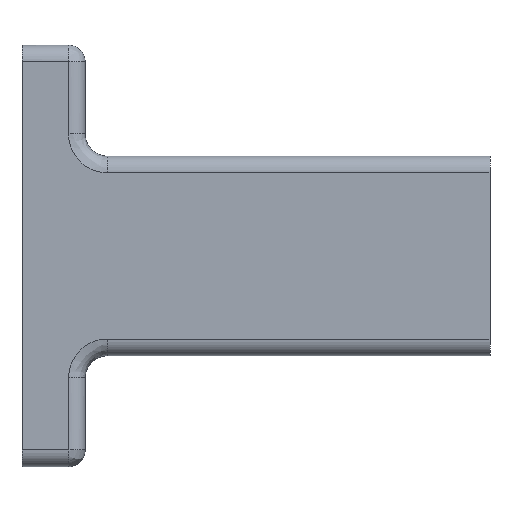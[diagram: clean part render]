
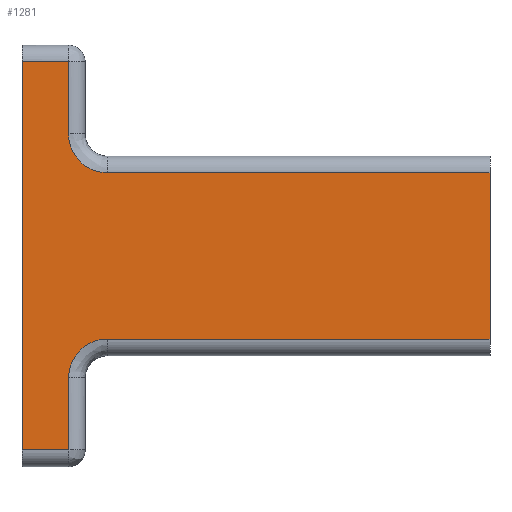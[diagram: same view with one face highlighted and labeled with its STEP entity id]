
A CAD part, top view. The second image highlights one B-rep face of the part: STEP entity #1281.
In plain terms, the highlighted free-form (B-spline) face has degree [1, 1] with [2, 2] control points.
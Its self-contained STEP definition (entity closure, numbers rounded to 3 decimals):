
#310=CARTESIAN_POINT('',(42.2,7.5,5.5));
#311=VERTEX_POINT('',#310);
#330=CARTESIAN_POINT('',(42.2,-7.5,5.5));
#331=VERTEX_POINT('',#330);
#332=CARTESIAN_POINT('',(42.2,7.5,5.5));
#333=CARTESIAN_POINT('',(42.2,4.5,5.5));
#334=CARTESIAN_POINT('',(42.2,1.5,5.5));
#335=CARTESIAN_POINT('',(42.2,-1.5,5.5));
#336=CARTESIAN_POINT('',(42.2,-4.5,5.5));
#337=CARTESIAN_POINT('',(42.2,-7.5,5.5));
#338=B_SPLINE_CURVE_WITH_KNOTS('',5,(#332,#333,#334,#335,#336,#337),.UNSPECIFIED.,.F.,.U.,(6,6),(0.,15.),.UNSPECIFIED.);
#339=EDGE_CURVE('',#311,#331,#338,.T.);
#572=CARTESIAN_POINT('',(7.7,-7.5,5.5));
#573=VERTEX_POINT('',#572);
#574=CARTESIAN_POINT('',(7.7,-7.5,5.5));
#575=CARTESIAN_POINT('',(14.6,-7.5,5.5));
#576=CARTESIAN_POINT('',(21.5,-7.5,5.5));
#577=CARTESIAN_POINT('',(28.4,-7.5,5.5));
#578=CARTESIAN_POINT('',(35.3,-7.5,5.5));
#579=CARTESIAN_POINT('',(42.2,-7.5,5.5));
#580=B_SPLINE_CURVE_WITH_KNOTS('',5,(#574,#575,#576,#577,#578,#579),.UNSPECIFIED.,.F.,.U.,(6,6),(0.,34.5),.UNSPECIFIED.);
#581=EDGE_CURVE('',#573,#331,#580,.T.);
#677=CARTESIAN_POINT('',(4.2,-11.,5.5));
#678=VERTEX_POINT('',#677);
#679=CARTESIAN_POINT('',(4.2,-11.,5.5));
#680=CARTESIAN_POINT('',(4.2,-10.725,5.5));
#681=CARTESIAN_POINT('',(4.227,-10.45,5.5));
#682=CARTESIAN_POINT('',(4.281,-10.179,5.5));
#683=CARTESIAN_POINT('',(4.441,-9.65,5.5));
#684=CARTESIAN_POINT('',(4.702,-9.163,5.5));
#685=CARTESIAN_POINT('',(4.855,-8.933,5.5));
#686=CARTESIAN_POINT('',(5.206,-8.506,5.5));
#687=CARTESIAN_POINT('',(5.633,-8.155,5.5));
#688=CARTESIAN_POINT('',(5.863,-8.002,5.5));
#689=CARTESIAN_POINT('',(6.35,-7.741,5.5));
#690=CARTESIAN_POINT('',(6.879,-7.581,5.5));
#691=CARTESIAN_POINT('',(7.15,-7.527,5.5));
#692=CARTESIAN_POINT('',(7.425,-7.5,5.5));
#693=CARTESIAN_POINT('',(7.7,-7.5,5.5));
#694=B_SPLINE_CURVE_WITH_KNOTS('',5,(#679,#680,#681,#682,#683,#684,#685,#686,#687,#688,#689,#690,#691,#692,#693),.UNSPECIFIED.,.F.,.U.,(6,3,3,3,6),(0.,0.393,0.785,1.178,1.571),.UNSPECIFIED.);
#695=EDGE_CURVE('',#678,#573,#694,.T.);
#997=CARTESIAN_POINT('',(4.2,-17.5,5.5));
#998=VERTEX_POINT('',#997);
#999=CARTESIAN_POINT('',(4.2,-17.5,5.5));
#1000=CARTESIAN_POINT('',(4.2,-16.2,5.5));
#1001=CARTESIAN_POINT('',(4.2,-14.9,5.5));
#1002=CARTESIAN_POINT('',(4.2,-13.6,5.5));
#1003=CARTESIAN_POINT('',(4.2,-12.3,5.5));
#1004=CARTESIAN_POINT('',(4.2,-11.,5.5));
#1005=B_SPLINE_CURVE_WITH_KNOTS('',5,(#999,#1000,#1001,#1002,#1003,#1004),.UNSPECIFIED.,.F.,.U.,(6,6),(0.,6.5),.UNSPECIFIED.);
#1006=EDGE_CURVE('',#998,#678,#1005,.T.);
#1098=CARTESIAN_POINT('',(0.,-17.5,5.5));
#1099=VERTEX_POINT('',#1098);
#1130=CARTESIAN_POINT('',(0.,-17.5,5.5));
#1131=CARTESIAN_POINT('',(0.84,-17.5,5.5));
#1132=CARTESIAN_POINT('',(1.68,-17.5,5.5));
#1133=CARTESIAN_POINT('',(2.52,-17.5,5.5));
#1134=CARTESIAN_POINT('',(3.36,-17.5,5.5));
#1135=CARTESIAN_POINT('',(4.2,-17.5,5.5));
#1136=B_SPLINE_CURVE_WITH_KNOTS('',5,(#1130,#1131,#1132,#1133,#1134,#1135),.UNSPECIFIED.,.F.,.U.,(6,6),(0.,4.2),.UNSPECIFIED.);
#1137=EDGE_CURVE('',#1099,#998,#1136,.T.);
#1207=CARTESIAN_POINT('',(0.,17.5,5.5));
#1208=CARTESIAN_POINT('',(0.,-17.5,5.5));
#1209=CARTESIAN_POINT('',(42.2,17.5,5.5));
#1210=CARTESIAN_POINT('',(42.2,-17.5,5.5));
#1211=B_SPLINE_SURFACE_WITH_KNOTS('',1,1,((#1207,#1208),(#1209,#1210)),.PLANE_SURF.,.F.,.F.,.U.,(2,2),(2,2),(0.,1.206),(0.,1.),.UNSPECIFIED.);
#1212=CARTESIAN_POINT('',(4.2,11.,5.5));
#1213=VERTEX_POINT('',#1212);
#1214=CARTESIAN_POINT('',(4.2,17.5,5.5));
#1215=VERTEX_POINT('',#1214);
#1216=CARTESIAN_POINT('',(4.2,11.,5.5));
#1217=CARTESIAN_POINT('',(4.2,12.3,5.5));
#1218=CARTESIAN_POINT('',(4.2,13.6,5.5));
#1219=CARTESIAN_POINT('',(4.2,14.9,5.5));
#1220=CARTESIAN_POINT('',(4.2,16.2,5.5));
#1221=CARTESIAN_POINT('',(4.2,17.5,5.5));
#1222=B_SPLINE_CURVE_WITH_KNOTS('',5,(#1216,#1217,#1218,#1219,#1220,#1221),.UNSPECIFIED.,.F.,.U.,(6,6),(0.,6.5),.UNSPECIFIED.);
#1223=EDGE_CURVE('',#1213,#1215,#1222,.T.);
#1224=ORIENTED_EDGE('',*,*,#1223,.F.);
#1225=CARTESIAN_POINT('',(7.7,7.5,5.5));
#1226=VERTEX_POINT('',#1225);
#1227=CARTESIAN_POINT('',(7.7,7.5,5.5));
#1228=CARTESIAN_POINT('',(7.425,7.5,5.5));
#1229=CARTESIAN_POINT('',(7.15,7.527,5.5));
#1230=CARTESIAN_POINT('',(6.879,7.581,5.5));
#1231=CARTESIAN_POINT('',(6.35,7.741,5.5));
#1232=CARTESIAN_POINT('',(5.863,8.002,5.5));
#1233=CARTESIAN_POINT('',(5.633,8.155,5.5));
#1234=CARTESIAN_POINT('',(5.206,8.506,5.5));
#1235=CARTESIAN_POINT('',(4.855,8.933,5.5));
#1236=CARTESIAN_POINT('',(4.702,9.163,5.5));
#1237=CARTESIAN_POINT('',(4.441,9.65,5.5));
#1238=CARTESIAN_POINT('',(4.281,10.179,5.5));
#1239=CARTESIAN_POINT('',(4.227,10.45,5.5));
#1240=CARTESIAN_POINT('',(4.2,10.725,5.5));
#1241=CARTESIAN_POINT('',(4.2,11.,5.5));
#1242=B_SPLINE_CURVE_WITH_KNOTS('',5,(#1227,#1228,#1229,#1230,#1231,#1232,#1233,#1234,#1235,#1236,#1237,#1238,#1239,#1240,#1241),.UNSPECIFIED.,.F.,.U.,(6,3,3,3,6),(0.,0.393,0.785,1.178,1.571),.UNSPECIFIED.);
#1243=EDGE_CURVE('',#1226,#1213,#1242,.T.);
#1244=ORIENTED_EDGE('',*,*,#1243,.F.);
#1245=CARTESIAN_POINT('',(42.2,7.5,5.5));
#1246=CARTESIAN_POINT('',(35.3,7.5,5.5));
#1247=CARTESIAN_POINT('',(28.4,7.5,5.5));
#1248=CARTESIAN_POINT('',(21.5,7.5,5.5));
#1249=CARTESIAN_POINT('',(14.6,7.5,5.5));
#1250=CARTESIAN_POINT('',(7.7,7.5,5.5));
#1251=B_SPLINE_CURVE_WITH_KNOTS('',5,(#1245,#1246,#1247,#1248,#1249,#1250),.UNSPECIFIED.,.F.,.U.,(6,6),(0.,34.5),.UNSPECIFIED.);
#1252=EDGE_CURVE('',#311,#1226,#1251,.T.);
#1253=ORIENTED_EDGE('',*,*,#1252,.F.);
#1254=ORIENTED_EDGE('',*,*,#339,.T.);
#1255=ORIENTED_EDGE('',*,*,#581,.F.);
#1256=ORIENTED_EDGE('',*,*,#695,.F.);
#1257=ORIENTED_EDGE('',*,*,#1006,.F.);
#1258=ORIENTED_EDGE('',*,*,#1137,.F.);
#1259=CARTESIAN_POINT('',(0.,17.5,5.5));
#1260=VERTEX_POINT('',#1259);
#1261=CARTESIAN_POINT('',(0.,-17.5,5.5));
#1262=CARTESIAN_POINT('',(0.,-10.5,5.5));
#1263=CARTESIAN_POINT('',(0.,-3.5,5.5));
#1264=CARTESIAN_POINT('',(0.,3.5,5.5));
#1265=CARTESIAN_POINT('',(0.,10.5,5.5));
#1266=CARTESIAN_POINT('',(0.,17.5,5.5));
#1267=B_SPLINE_CURVE_WITH_KNOTS('',5,(#1261,#1262,#1263,#1264,#1265,#1266),.UNSPECIFIED.,.F.,.U.,(6,6),(0.,35.),.UNSPECIFIED.);
#1268=EDGE_CURVE('',#1099,#1260,#1267,.T.);
#1269=ORIENTED_EDGE('',*,*,#1268,.T.);
#1270=CARTESIAN_POINT('',(4.2,17.5,5.5));
#1271=CARTESIAN_POINT('',(3.36,17.5,5.5));
#1272=CARTESIAN_POINT('',(2.52,17.5,5.5));
#1273=CARTESIAN_POINT('',(1.68,17.5,5.5));
#1274=CARTESIAN_POINT('',(0.84,17.5,5.5));
#1275=CARTESIAN_POINT('',(0.,17.5,5.5));
#1276=B_SPLINE_CURVE_WITH_KNOTS('',5,(#1270,#1271,#1272,#1273,#1274,#1275),.UNSPECIFIED.,.F.,.U.,(6,6),(0.,4.2),.UNSPECIFIED.);
#1277=EDGE_CURVE('',#1215,#1260,#1276,.T.);
#1278=ORIENTED_EDGE('',*,*,#1277,.F.);
#1279=EDGE_LOOP('',(#1224,#1244,#1253,#1254,#1255,#1256,#1257,#1258,#1269,#1278));
#1280=FACE_OUTER_BOUND('',#1279,.F.);
#1281=ADVANCED_FACE('',(#1280),#1211,.F.);
